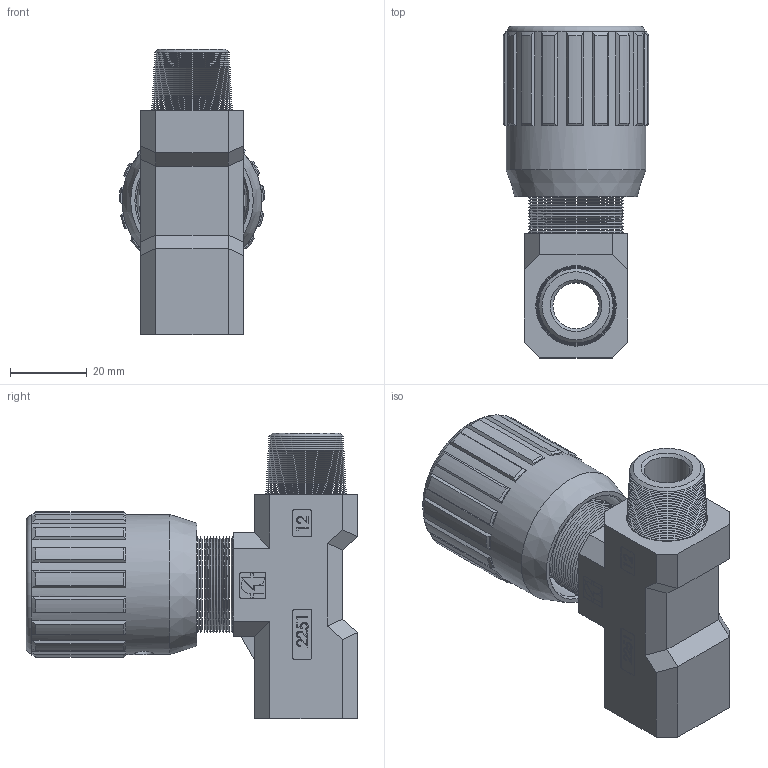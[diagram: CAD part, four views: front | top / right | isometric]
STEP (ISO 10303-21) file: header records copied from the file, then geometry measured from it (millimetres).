
FILE_DESCRIPTION (( 'STEP AP214' ), '1' );
FILE_NAME ('FT2251-2-12 - MF.STEP', '2015-04-16T12:37:09', ( 'cperuzzotti' ), ( 'Hewlett-Packard Company' ), 'SwSTEP 2.0', 'SolidWorks 2014', '' );
FILE_SCHEMA (( 'AUTOMOTIVE_DESIGN' ));
Length unit declared in the file: millimetre
Products named in the file (1): FT2251-2-12 - MF
Bounding box: 38 x 86.5 x 74.5 mm (x, y, z)
Surface area: 23120.6 mm2 (no closed solid volume)
Topology: 0 solids, 27 shells, 501 faces, 1674 edges, 1137 vertices
Faces by surface type: plane 281, cone 125, cylinder 62, bspline 32, torus 1
Full cylindrical faces by diameter (mm): 5 x1, 12 x1, 18 x1, 18.631 x2, 22.9 x1, 25 x1, 36.5 x1
Entity records: 25205 total; most frequent: CARTESIAN_POINT 5973, DIRECTION 2665, ORIENTED_EDGE 2592, EDGE_CURVE 1557, VERTEX_POINT 1120, VECTOR 1073, LINE 1073, AXIS2_PLACEMENT_3D 796
